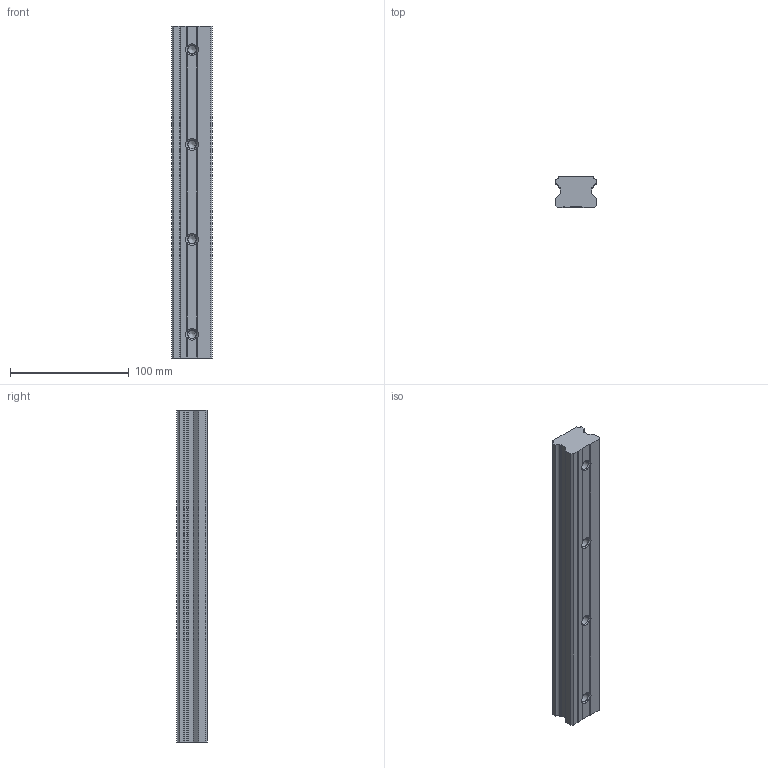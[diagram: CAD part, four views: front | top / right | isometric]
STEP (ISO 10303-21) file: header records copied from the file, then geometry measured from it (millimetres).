
FILE_DESCRIPTION (( 'STEP AP203' ), '1' );
FILE_NAME ('SBI 35 - B.STEP', '2014-08-05T09:29:00', ( 'star' ), ( '' ), 'SwSTEP 2.0', 'SolidWorks 2013', '' );
FILE_SCHEMA (( 'CONFIG_CONTROL_DESIGN' ));
Length unit declared in the file: millimetre
Products named in the file (1): SBI 35 - B
Bounding box: 34 x 26 x 280 mm (x, y, z)
Volume: 221583.1 mm3; surface area: 37428.9 mm2
Topology: 1 solids, 1 shells, 98 faces, 268 edges, 164 vertices
Faces by surface type: plane 39, cylinder 35, cone 24
Entity records: 3191 total; most frequent: CARTESIAN_POINT 683, ORIENTED_EDGE 520, DIRECTION 504, EDGE_CURVE 260, AXIS2_PLACEMENT_3D 177, VERTEX_POINT 164, VECTOR 150, LINE 150
